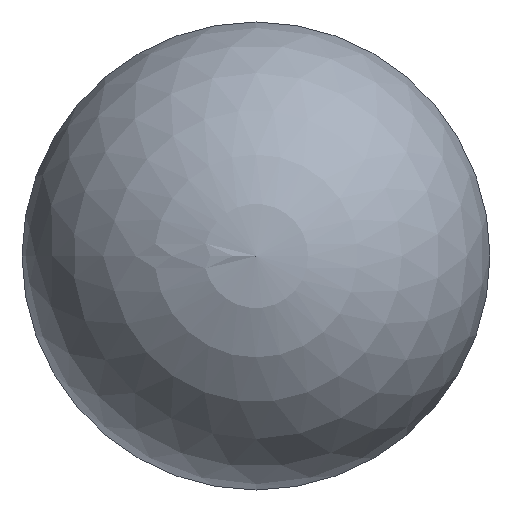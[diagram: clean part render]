
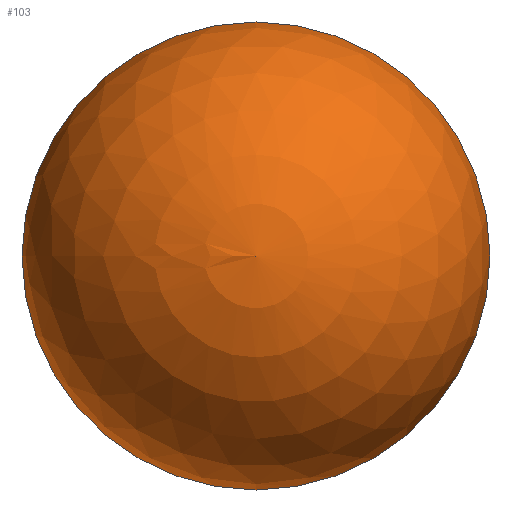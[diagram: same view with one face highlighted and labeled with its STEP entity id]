
A CAD part, left-side view. The second image highlights one B-rep face of the part: STEP entity #103.
In plain terms, the highlighted spherical face has radius 3 mm.
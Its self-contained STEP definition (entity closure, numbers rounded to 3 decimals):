
#101=SPHERICAL_SURFACE('',#134,3.);
#103=ADVANCED_FACE('',(#108),#101,.T.);
#108=FACE_OUTER_BOUND('',#110,.T.);
#110=EDGE_LOOP('',(#116));
#116=ORIENTED_EDGE('',*,*,#125,.T.);
#122=VERTEX_POINT('',#159);
#125=EDGE_CURVE('',#122,#122,#128,.T.);
#128=CIRCLE('',#133,3.);
#133=AXIS2_PLACEMENT_3D('',#158,#144,#145);
#134=AXIS2_PLACEMENT_3D('',#160,#146,#147);
#144=DIRECTION('',(-1.,0.,0.));
#145=DIRECTION('',(0.,-1.,0.));
#146=DIRECTION('',(-1.,0.,0.));
#147=DIRECTION('',(0.,1.,0.));
#158=CARTESIAN_POINT('',(7898.111,6118.428,0.));
#159=CARTESIAN_POINT('',(7898.111,6115.428,0.));
#160=CARTESIAN_POINT('',(7898.111,6118.428,0.));
